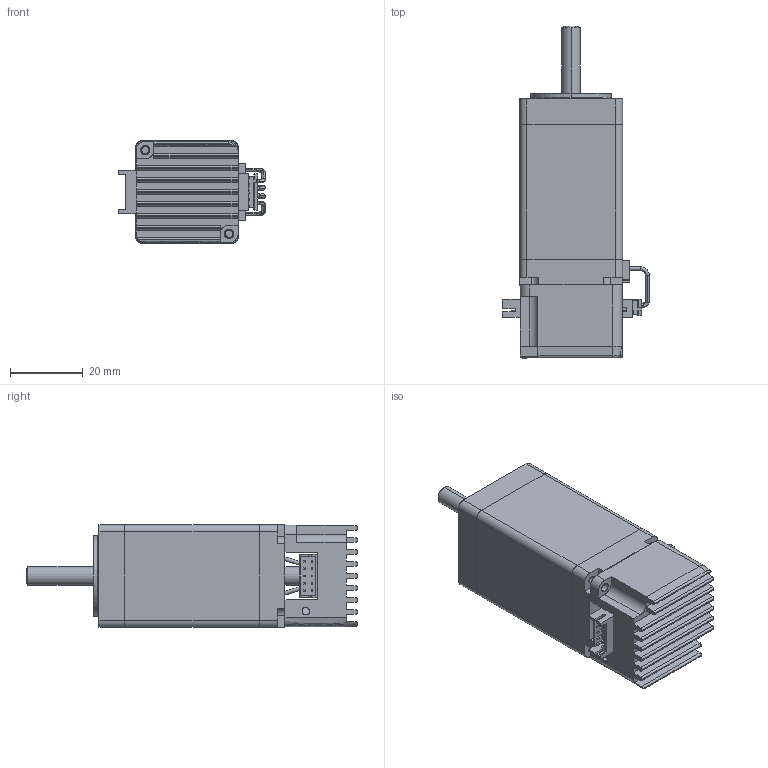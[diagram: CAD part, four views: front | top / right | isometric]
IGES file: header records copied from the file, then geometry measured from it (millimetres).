
Start section: SolidWorks IGES file using analytic representation for surfaces
Global section: file name: C:\Users\IEUser\Documents\Christine folder\Arcus\Project #23 DMX Drawings\DMX-K-DRV-11\DMX-K-DRV-11-3.IGS; native system: SolidWorks 2008; preprocessor: SolidWorks 2008; author: IEUser; date: 140210.222231; units: millimetre
Bounding box: 40.12 x 91 x 28.2 mm (x, y, z)
Surface area: 19427 mm2 (no closed solid volume)
Topology: 0 solids, 0 shells, 1025 faces, 7494 edges, 7482 vertices
Faces by surface type: bspline 834, revolution 191
